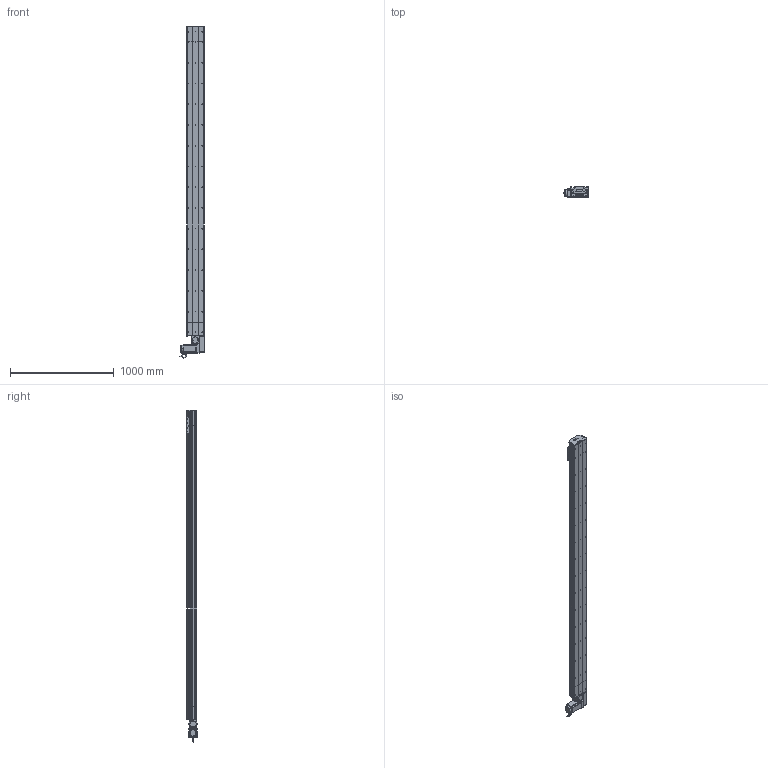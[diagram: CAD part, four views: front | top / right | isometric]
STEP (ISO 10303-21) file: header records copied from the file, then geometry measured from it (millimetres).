
FILE_DESCRIPTION (( 'STEP AP214' ), '1' );
FILE_NAME ('D17 TBH LH S2700.STEP', '2010-06-30T08:50:07', ( 'Christophe Gaillard' ), ( 'SGA' ), 'SwSTEP 2.0', 'SolidWorks 2010', '' );
FILE_SCHEMA (( 'AUTOMOTIVE_DESIGN' ));
Length unit declared in the file: millimetre
Products named in the file (40): Plaque racord D17_Default; chariot D17S_Default; couroie head D17_Default; course 2700 D17B_Default; guide D17; vis M5 L25_Default; vis M5 L16_Default; vis M5 L12_Default; Vis M5 L16-2_Default; poulie head_Default; Couroie+ rail D17 Course 2700 ; vis M5 L5_Default; cache D17_Default; Arbre+rail head D17B; plaque de  bout head D17B LH_Default; couvercle D17B head_Default; cache arbre D17_Default; corp D17B 2700_Default; corpl head D17 _Default; Head LH D17B_Default; couvercle D17B course L2700_Default; plaque de  bout tail D17B_Default; Tail D17B+100_Default; Renvoi LH_Default; Couroie tail D17B_Default; poulie tail_Default; vis M5 L8 90°_Default; Conecteur2_Default; Conecteur_Default; Moteur motionking 90BLDC125A-640; couvercle D17B_Default; codeur 90BLDC125-640; vis M5 L70_Default; avant 90BLDC125A-640; corps 90BLDC125A-640; corp tail D17B+100_Default; tete d''axe poulie D17B; Chariot D17; Rail D17B; D17 TBH LH S2700
Assembly tree (70 placements, depth 4):
  D17 TBH LH S2700
    course 2700 D17B_Default
      couvercle D17B course L2700_Default
      Couroie+ rail D17 Course 2700 
      corp D17B 2700_Default
    Tail D17B+100_Default
      Rail D17B
      corp tail D17B+100_Default
      vis M5 L25_Default  x2
      poulie tail_Default
      plaque de  bout tail D17B_Default
      vis M5 L12_Default  x4
      vis M5 L8 90°_Default  x2
      couvercle D17B_Default
      tete d''axe poulie D17B
      Couroie tail D17B_Default
    Head LH D17B_Default
      Arbre+rail head D17B
      vis M5 L5_Default  x4
      vis M5 L25_Default  x2
      vis M5 L16_Default  x2
      vis M5 L12_Default  x8
      Moteur motionking 90BLDC125A-640
        Conecteur_Default
        codeur 90BLDC125-640
        avant 90BLDC125A-640
        corps 90BLDC125A-640
        Conecteur2_Default
      Vis M5 L16-2_Default  x4
      poulie head_Default
      cache arbre D17_Default
      cache D17_Default  x2
      Plaque racord D17_Default
      couroie head D17_Default
      vis M5 L70_Default  x4
      corpl head D17 _Default
      plaque de  bout head D17B LH_Default
      Renvoi LH_Default
      couvercle D17B head_Default
    chariot D17S_Default
      vis M5 L12_Default  x4
      Chariot D17
      guide D17  x2
Bounding box: 245.2 x 105.65 x 3200.95 mm (x, y, z)
Volume: 17908816.8 mm3; surface area: 5200558.1 mm2
Topology: 94 solids, 94 shells, 2765 faces, 7059 edges, 4542 vertices
Faces by surface type: plane 1611, cylinder 841, bspline 136, cone 88, torus 85, sphere 4
Entity records: 87490 total; most frequent: CARTESIAN_POINT 25647, ORIENTED_EDGE 10890, DIRECTION 10310, EDGE_CURVE 5445, VERTEX_POINT 3566, VECTOR 3552, LINE 3552, AXIS2_PLACEMENT_3D 3379
